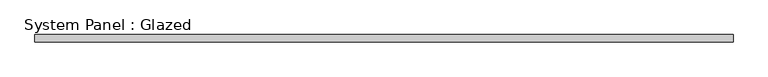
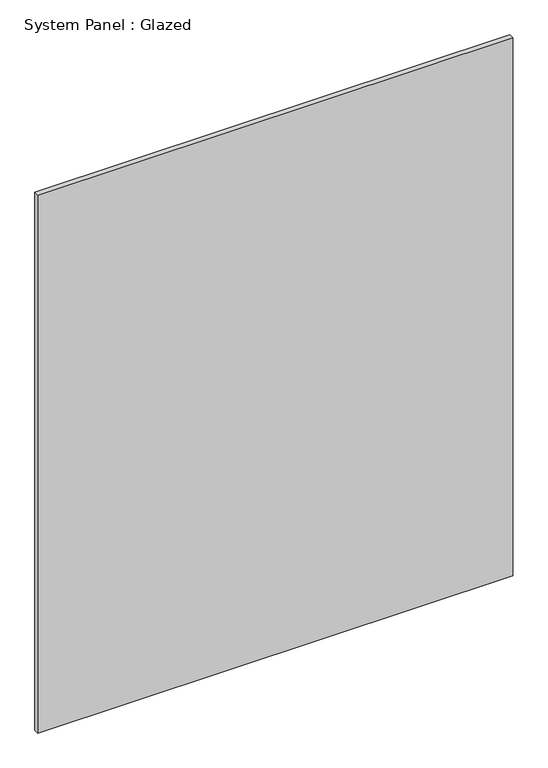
"""IFC4 building model written with IfcOpenShell, lengths in millimetres: plate geometry, System Panel : Glazed."""

from ifc_helpers import new_model, si_unit, origin, origin_with_axes, place, context, project, spatial, polyline, outline, extrude, source, transform, mapped, element, save


def system_panel_glazed_b25d086d(model_context):
    return source(origin(), model_context, "Body", "SweptSolid", [
        extrude(outline(polyline([(1246.1875, 19.05), (-1246.1875, 19.05), (-1246.1875, 44.45), (1246.1875, 44.45), (1246.1875, 19.05)])), origin_with_axes(), (0.0, 0.0, 1.0), 2984.5),
    ])


if __name__ == "__main__":
    model = new_model("IFC4")
    model_context = context("Model", 3, world=origin())
    ifc_project = project(units=[si_unit("LENGTHUNIT", "METRE", prefix="MILLI")], contexts=[model_context])
    site = spatial("IfcSite", under=ifc_project)
    building = spatial("IfcBuilding", under=site)
    placement = place(None, origin())
    system_panel_glazed_shape = system_panel_glazed_b25d086d(model_context)
    element("IfcPlate", 1, ObjectType="System Panel : Glazed", at=placement, inside=building, context=model_context, shape_type="MappedRepresentation", body=[
        mapped(system_panel_glazed_shape, transform((0.0, 0.0, 0.0), x_axis=(1.0, 0.0, 0.0), y_axis=(0.0, 1.0, 0.0), z_axis=(0.0, 0.0, 1.0))),
    ])
    save(model, "model.ifc")
